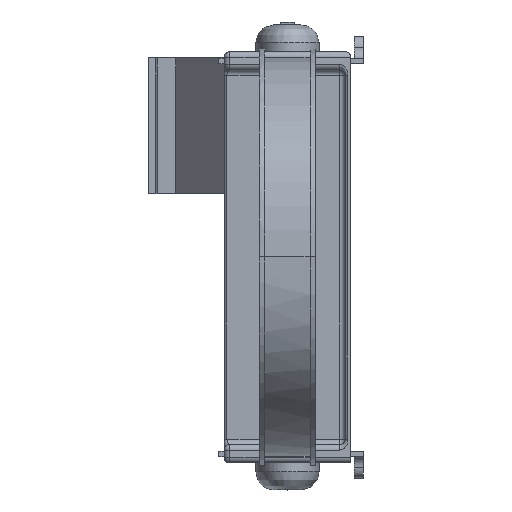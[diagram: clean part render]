
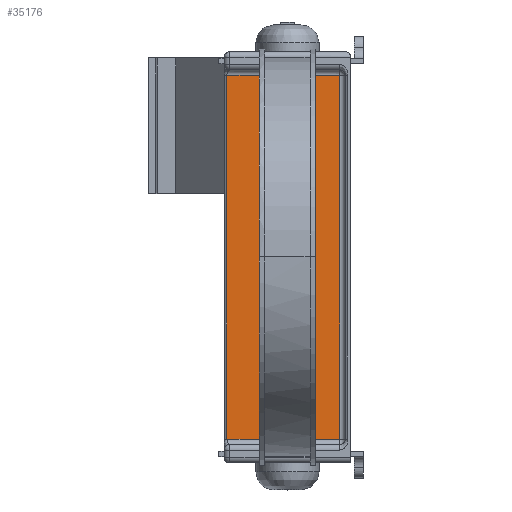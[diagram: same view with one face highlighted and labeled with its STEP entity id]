
A CAD part, top view. The second image highlights one B-rep face of the part: STEP entity #35176.
In plain terms, the highlighted planar face has unit normal (0, 0, 1).
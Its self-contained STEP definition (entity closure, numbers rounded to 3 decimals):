
#5299=FACE_OUTER_BOUND('',#7339,.T.);
#7339=EDGE_LOOP('',(#25582,#25583,#25584,#25585));
#9591=LINE('',#50600,#11971);
#9593=LINE('',#50603,#11973);
#9595=LINE('',#50606,#11975);
#9601=LINE('',#50616,#11981);
#11971=VECTOR('',#38909,10.);
#11973=VECTOR('',#38913,10.);
#11975=VECTOR('',#38917,10.);
#11981=VECTOR('',#38931,10.);
#15467=VERTEX_POINT('',#50445);
#15468=VERTEX_POINT('',#50504);
#15473=VERTEX_POINT('',#50526);
#15475=VERTEX_POINT('',#50586);
#19423=EDGE_CURVE('',#15468,#15475,#9591,.T.);
#19425=EDGE_CURVE('',#15475,#15473,#9593,.T.);
#19427=EDGE_CURVE('',#15473,#15467,#9595,.T.);
#19433=EDGE_CURVE('',#15467,#15468,#9601,.T.);
#25582=ORIENTED_EDGE('',*,*,#19423,.F.);
#25583=ORIENTED_EDGE('',*,*,#19433,.F.);
#25584=ORIENTED_EDGE('',*,*,#19427,.F.);
#25585=ORIENTED_EDGE('',*,*,#19425,.F.);
#34707=PLANE('',#37392);
#35176=ADVANCED_FACE('',(#5299),#34707,.T.);
#37392=AXIS2_PLACEMENT_3D('',#50646,#38972,#38973);
#38909=DIRECTION('',(0.,1.,0.));
#38913=DIRECTION('',(1.,0.,0.));
#38917=DIRECTION('',(0.,-1.,0.));
#38931=DIRECTION('',(-1.,0.,0.));
#38972=DIRECTION('center_axis',(0.,0.,1.));
#38973=DIRECTION('ref_axis',(0.,1.,0.));
#50445=CARTESIAN_POINT('',(41.5,-100.695,-57.));
#50504=CARTESIAN_POINT('',(-21.,-100.695,-57.));
#50526=CARTESIAN_POINT('',(41.5,100.695,-57.));
#50586=CARTESIAN_POINT('',(-21.,100.695,-57.));
#50600=CARTESIAN_POINT('',(-21.,0.,-57.));
#50603=CARTESIAN_POINT('',(11.,100.695,-57.));
#50606=CARTESIAN_POINT('',(41.5,0.,-57.));
#50616=CARTESIAN_POINT('',(44.5,-100.695,-57.));
#50646=CARTESIAN_POINT('Origin',(44.5,-103.695,-57.));
